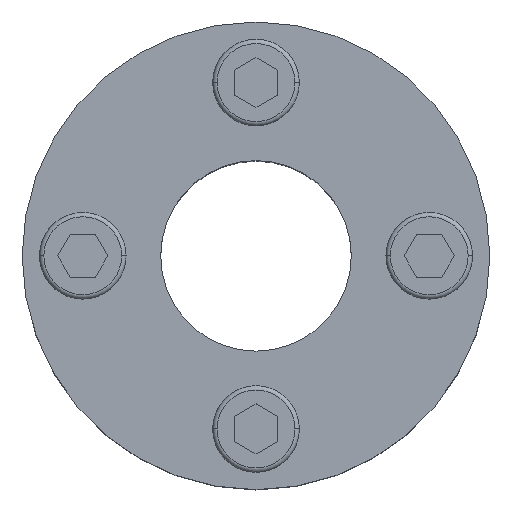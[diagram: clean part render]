
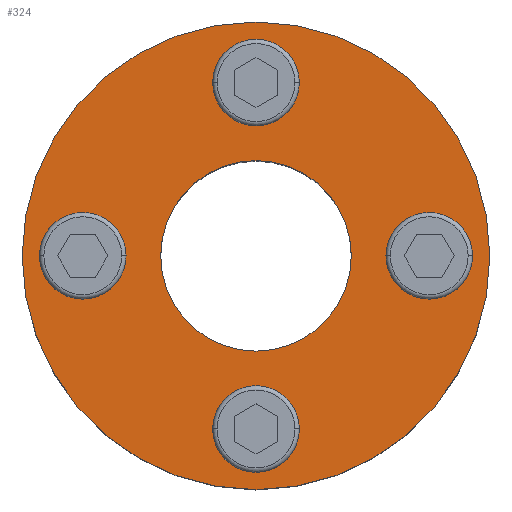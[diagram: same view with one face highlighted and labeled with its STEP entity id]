
A CAD part, top view. The second image highlights one B-rep face of the part: STEP entity #324.
In plain terms, the highlighted planar face has unit normal (0, 0, 1).
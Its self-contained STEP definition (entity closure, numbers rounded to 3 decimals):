
#3 = CARTESIAN_POINT ( 'NONE',  ( -5., -20., 0. ) ) ;
#56 = CARTESIAN_POINT ( 'NONE',  ( 0., 20., 0. ) ) ;
#71 = CARTESIAN_POINT ( 'NONE',  ( -5., 20., 0. ) ) ;
#91 = CARTESIAN_POINT ( 'NONE',  ( 0., -20., 0. ) ) ;
#98 = DIRECTION ( 'NONE',  ( -1., 0., 0. ) ) ;
#103 = CARTESIAN_POINT ( 'NONE',  ( -11., 0., 0. ) ) ;
#136 = EDGE_CURVE ( 'NONE', #1592, #145, #231, .T. ) ;
#144 = CARTESIAN_POINT ( 'NONE',  ( -27., 0., 0. ) ) ;
#145 = VERTEX_POINT ( 'NONE', #1606 ) ;
#147 = DIRECTION ( 'NONE',  ( -1., 0., 0. ) ) ;
#153 = DIRECTION ( 'NONE',  ( -1., 0., 0. ) ) ;
#155 = ORIENTED_EDGE ( 'NONE', *, *, #1352, .F. ) ;
#157 = AXIS2_PLACEMENT_3D ( 'NONE', #662, #263, #799 ) ;
#168 = AXIS2_PLACEMENT_3D ( 'NONE', #1568, #548, #147 ) ;
#182 = CIRCLE ( 'NONE', #378, 11. ) ;
#207 = CARTESIAN_POINT ( 'NONE',  ( 0., 0., 0. ) ) ;
#210 = CARTESIAN_POINT ( 'NONE',  ( -25., 0., 0. ) ) ;
#225 = ORIENTED_EDGE ( 'NONE', *, *, #1664, .F. ) ;
#227 = AXIS2_PLACEMENT_3D ( 'NONE', #235, #1282, #1040 ) ;
#231 = CIRCLE ( 'NONE', #227, 5. ) ;
#235 = CARTESIAN_POINT ( 'NONE',  ( 20., 0., 0. ) ) ;
#239 = CARTESIAN_POINT ( 'NONE',  ( 11., 0., 0. ) ) ;
#240 = AXIS2_PLACEMENT_3D ( 'NONE', #207, #493, #736 ) ;
#255 = EDGE_CURVE ( 'NONE', #1147, #1677, #182, .T. ) ;
#258 = DIRECTION ( 'NONE',  ( -1., 0., 0. ) ) ;
#261 = ORIENTED_EDGE ( 'NONE', *, *, #877, .F. ) ;
#263 = DIRECTION ( 'NONE',  ( 0., 0., 1. ) ) ;
#283 = EDGE_CURVE ( 'NONE', #500, #1105, #939, .T. ) ;
#303 = VERTEX_POINT ( 'NONE', #3 ) ;
#324 = ADVANCED_FACE ( 'NONE', ( #811, #932, #334, #960, #993, #603 ), #1176, .F. ) ;
#332 = AXIS2_PLACEMENT_3D ( 'NONE', #782, #650, #1549 ) ;
#334 = FACE_BOUND ( 'NONE', #700, .T. ) ;
#337 = DIRECTION ( 'NONE',  ( 1., 0., 0. ) ) ;
#343 = AXIS2_PLACEMENT_3D ( 'NONE', #1563, #404, #671 ) ;
#359 = ORIENTED_EDGE ( 'NONE', *, *, #593, .F. ) ;
#367 = CARTESIAN_POINT ( 'NONE',  ( 0., 0., 0. ) ) ;
#378 = AXIS2_PLACEMENT_3D ( 'NONE', #1373, #990, #337 ) ;
#404 = DIRECTION ( 'NONE',  ( 0., 0., -1. ) ) ;
#430 = DIRECTION ( 'NONE',  ( 0., 0., 1. ) ) ;
#469 = CIRCLE ( 'NONE', #332, 5. ) ;
#483 = VERTEX_POINT ( 'NONE', #71 ) ;
#492 = DIRECTION ( 'NONE',  ( 1., 0., 0. ) ) ;
#493 = DIRECTION ( 'NONE',  ( 0., 0., 1. ) ) ;
#496 = CARTESIAN_POINT ( 'NONE',  ( 0., -20., 0. ) ) ;
#500 = VERTEX_POINT ( 'NONE', #1098 ) ;
#503 = EDGE_LOOP ( 'NONE', ( #359, #913 ) ) ;
#528 = VERTEX_POINT ( 'NONE', #1627 ) ;
#543 = DIRECTION ( 'NONE',  ( 0., 0., 1. ) ) ;
#548 = DIRECTION ( 'NONE',  ( 0., 0., 1. ) ) ;
#593 = EDGE_CURVE ( 'NONE', #145, #1592, #469, .T. ) ;
#599 = VERTEX_POINT ( 'NONE', #144 ) ;
#603 = FACE_OUTER_BOUND ( 'NONE', #1149, .T. ) ;
#650 = DIRECTION ( 'NONE',  ( 0., 0., 1. ) ) ;
#662 = CARTESIAN_POINT ( 'NONE',  ( -20., 0., 0. ) ) ;
#671 = DIRECTION ( 'NONE',  ( -1., 0., 0. ) ) ;
#700 = EDGE_LOOP ( 'NONE', ( #859, #225 ) ) ;
#736 = DIRECTION ( 'NONE',  ( 1., 0., 0. ) ) ;
#741 = ORIENTED_EDGE ( 'NONE', *, *, #255, .F. ) ;
#742 = AXIS2_PLACEMENT_3D ( 'NONE', #1178, #1564, #922 ) ;
#775 = ORIENTED_EDGE ( 'NONE', *, *, #1181, .F. ) ;
#778 = DIRECTION ( 'NONE',  ( 0., 0., 1. ) ) ;
#782 = CARTESIAN_POINT ( 'NONE',  ( 20., 0., 0. ) ) ;
#786 = CIRCLE ( 'NONE', #742, 11. ) ;
#799 = DIRECTION ( 'NONE',  ( -1., 0., 0. ) ) ;
#806 = CIRCLE ( 'NONE', #889, 5. ) ;
#811 = FACE_BOUND ( 'NONE', #1469, .T. ) ;
#820 = EDGE_LOOP ( 'NONE', ( #775, #741 ) ) ;
#859 = ORIENTED_EDGE ( 'NONE', *, *, #887, .F. ) ;
#870 = CARTESIAN_POINT ( 'NONE',  ( 27., 0., 0. ) ) ;
#877 = EDGE_CURVE ( 'NONE', #907, #483, #806, .T. ) ;
#878 = AXIS2_PLACEMENT_3D ( 'NONE', #1320, #543, #153 ) ;
#887 = EDGE_CURVE ( 'NONE', #303, #528, #1093, .T. ) ;
#889 = AXIS2_PLACEMENT_3D ( 'NONE', #56, #430, #1336 ) ;
#907 = VERTEX_POINT ( 'NONE', #1379 ) ;
#913 = ORIENTED_EDGE ( 'NONE', *, *, #136, .F. ) ;
#922 = DIRECTION ( 'NONE',  ( 1., 0., 0. ) ) ;
#925 = AXIS2_PLACEMENT_3D ( 'NONE', #367, #1139, #492 ) ;
#932 = FACE_BOUND ( 'NONE', #503, .T. ) ;
#936 = EDGE_CURVE ( 'NONE', #599, #1114, #1467, .T. ) ;
#939 = CIRCLE ( 'NONE', #157, 5. ) ;
#960 = FACE_BOUND ( 'NONE', #1374, .T. ) ;
#968 = ORIENTED_EDGE ( 'NONE', *, *, #936, .T. ) ;
#985 = AXIS2_PLACEMENT_3D ( 'NONE', #91, #778, #258 ) ;
#990 = DIRECTION ( 'NONE',  ( 0., 0., 1. ) ) ;
#993 = FACE_BOUND ( 'NONE', #820, .T. ) ;
#1005 = ORIENTED_EDGE ( 'NONE', *, *, #283, .F. ) ;
#1040 = DIRECTION ( 'NONE',  ( -1., 0., 0. ) ) ;
#1050 = CIRCLE ( 'NONE', #1342, 5. ) ;
#1070 = CIRCLE ( 'NONE', #878, 5. ) ;
#1093 = CIRCLE ( 'NONE', #985, 5. ) ;
#1098 = CARTESIAN_POINT ( 'NONE',  ( -15., 0., 0. ) ) ;
#1105 = VERTEX_POINT ( 'NONE', #210 ) ;
#1114 = VERTEX_POINT ( 'NONE', #870 ) ;
#1134 = EDGE_CURVE ( 'NONE', #1114, #599, #1345, .T. ) ;
#1139 = DIRECTION ( 'NONE',  ( 0., 0., 1. ) ) ;
#1147 = VERTEX_POINT ( 'NONE', #103 ) ;
#1149 = EDGE_LOOP ( 'NONE', ( #1287, #968 ) ) ;
#1176 = PLANE ( 'NONE',  #343 ) ;
#1178 = CARTESIAN_POINT ( 'NONE',  ( 0., 0., 0. ) ) ;
#1181 = EDGE_CURVE ( 'NONE', #1677, #1147, #786, .T. ) ;
#1247 = CARTESIAN_POINT ( 'NONE',  ( 25., 0., 0. ) ) ;
#1282 = DIRECTION ( 'NONE',  ( 0., 0., 1. ) ) ;
#1287 = ORIENTED_EDGE ( 'NONE', *, *, #1134, .T. ) ;
#1310 = ORIENTED_EDGE ( 'NONE', *, *, #1378, .F. ) ;
#1320 = CARTESIAN_POINT ( 'NONE',  ( -20., 0., 0. ) ) ;
#1336 = DIRECTION ( 'NONE',  ( -1., 0., 0. ) ) ;
#1342 = AXIS2_PLACEMENT_3D ( 'NONE', #496, #1682, #98 ) ;
#1345 = CIRCLE ( 'NONE', #925, 27. ) ;
#1352 = EDGE_CURVE ( 'NONE', #483, #907, #1656, .T. ) ;
#1373 = CARTESIAN_POINT ( 'NONE',  ( 0., 0., 0. ) ) ;
#1374 = EDGE_LOOP ( 'NONE', ( #1310, #1005 ) ) ;
#1378 = EDGE_CURVE ( 'NONE', #1105, #500, #1070, .T. ) ;
#1379 = CARTESIAN_POINT ( 'NONE',  ( 5., 20., 0. ) ) ;
#1467 = CIRCLE ( 'NONE', #240, 27. ) ;
#1469 = EDGE_LOOP ( 'NONE', ( #155, #261 ) ) ;
#1549 = DIRECTION ( 'NONE',  ( -1., 0., 0. ) ) ;
#1563 = CARTESIAN_POINT ( 'NONE',  ( -11., 0., 0. ) ) ;
#1564 = DIRECTION ( 'NONE',  ( 0., 0., 1. ) ) ;
#1568 = CARTESIAN_POINT ( 'NONE',  ( 0., 20., 0. ) ) ;
#1592 = VERTEX_POINT ( 'NONE', #1247 ) ;
#1606 = CARTESIAN_POINT ( 'NONE',  ( 15., 0., 0. ) ) ;
#1627 = CARTESIAN_POINT ( 'NONE',  ( 5., -20., 0. ) ) ;
#1656 = CIRCLE ( 'NONE', #168, 5. ) ;
#1664 = EDGE_CURVE ( 'NONE', #528, #303, #1050, .T. ) ;
#1677 = VERTEX_POINT ( 'NONE', #239 ) ;
#1682 = DIRECTION ( 'NONE',  ( 0., 0., 1. ) ) ;
